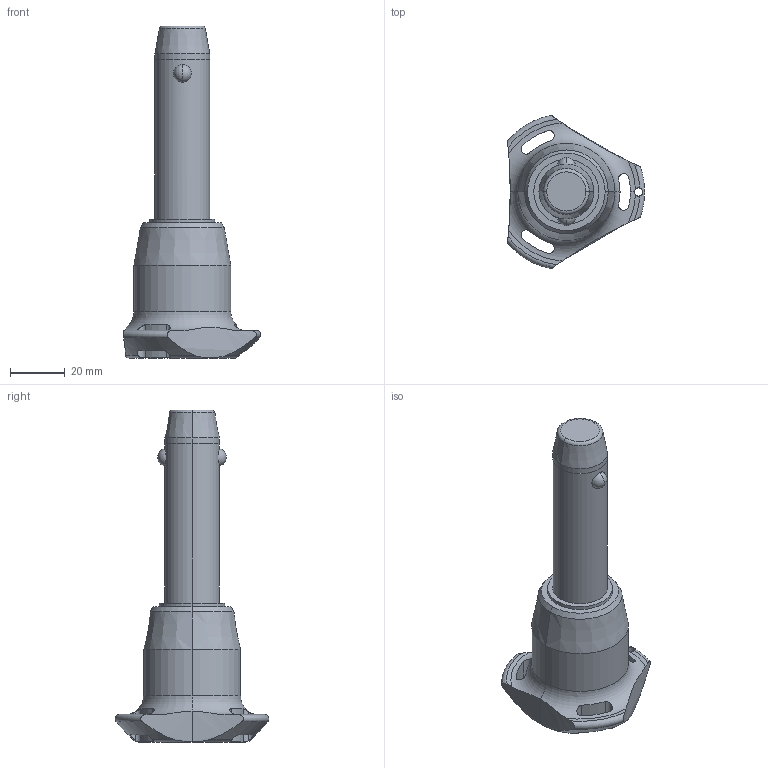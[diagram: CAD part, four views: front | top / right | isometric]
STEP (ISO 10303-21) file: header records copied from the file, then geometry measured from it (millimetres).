
FILE_DESCRIPTION (( 'STEP AP203' ), '1' );
FILE_NAME ('QR1716.M20-050-T.step', '2025-11-13T10:42:25', ( '' ), ( '' ), 'SwSTEP 2.0', 'SolidWorks 2019', '' );
FILE_SCHEMA (( 'CONFIG_CONTROL_DESIGN' ));
Length unit declared in the file: millimetre
Products named in the file (1): QR1716.M20-050-T
Bounding box: 50.04 x 56.02 x 121.2 mm (x, y, z)
Volume: 72888.9 mm3; surface area: 14218.3 mm2
Topology: 1 solids, 1 shells, 68 faces, 182 edges, 115 vertices
Faces by surface type: cylinder 32, cone 14, torus 11, sphere 6, plane 5
Entity records: 2938 total; most frequent: CARTESIAN_POINT 1192, ORIENTED_EDGE 364, DIRECTION 345, EDGE_CURVE 182, AXIS2_PLACEMENT_3D 154, VERTEX_POINT 115, CIRCLE 85, EDGE_LOOP 75
